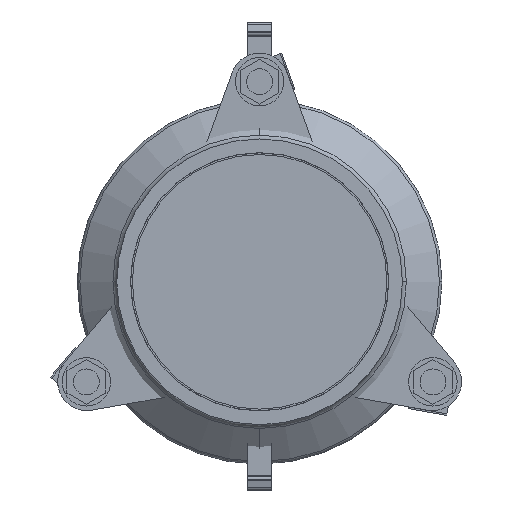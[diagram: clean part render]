
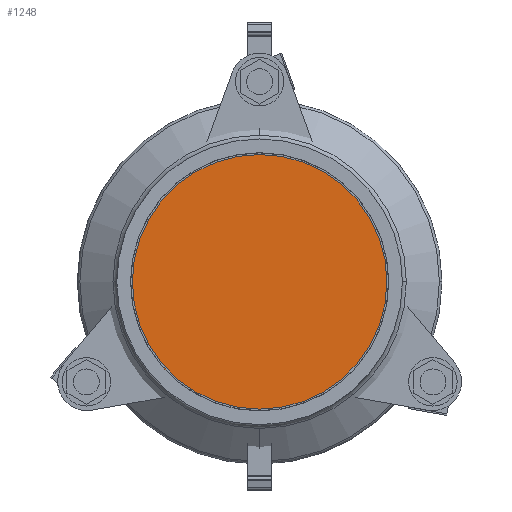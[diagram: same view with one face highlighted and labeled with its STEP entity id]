
A CAD part, left-side view. The second image highlights one B-rep face of the part: STEP entity #1248.
In plain terms, the highlighted planar face has unit normal (-1, 0, 0).
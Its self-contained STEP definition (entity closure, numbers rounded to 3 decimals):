
#1248=ADVANCED_FACE('',(#2338),#2339,.T.);
#2338=FACE_OUTER_BOUND('',#3530,.T.);
#2339=PLANE('',#3531);
#3530=EDGE_LOOP('',(#5829,#5830));
#3531=AXIS2_PLACEMENT_3D('',#5831,#5832,#5833);
#5829=ORIENTED_EDGE('',*,*,#7183,.T.);
#5830=ORIENTED_EDGE('',*,*,#6941,.T.);
#5831=CARTESIAN_POINT('',(-94.5,0.0,0.0));
#5832=DIRECTION('',(-1.0,0.0,0.));
#5833=DIRECTION('',(0.,0.0,1.0));
#6941=EDGE_CURVE('',#8326,#8323,#8327,.T.);
#7183=EDGE_CURVE('',#8323,#8326,#8649,.T.);
#8323=VERTEX_POINT('',#10080);
#8326=VERTEX_POINT('',#10084);
#8327=CIRCLE('',#10085,88.5);
#8649=CIRCLE('',#10521,88.5);
#10080=CARTESIAN_POINT('',(-94.5,0.0,-88.5));
#10084=CARTESIAN_POINT('',(-94.5,0.,88.5));
#10085=AXIS2_PLACEMENT_3D('',#11597,#11598,#11599);
#10521=AXIS2_PLACEMENT_3D('',#11855,#11856,#11857);
#11597=CARTESIAN_POINT('',(-94.5,0.0,0.0));
#11598=DIRECTION('',(-1.0,0.0,0.));
#11599=DIRECTION('',(0.,0.0,-1.0));
#11855=CARTESIAN_POINT('',(-94.5,0.0,0.0));
#11856=DIRECTION('',(-1.0,0.0,0.));
#11857=DIRECTION('',(0.,0.0,-1.0));
